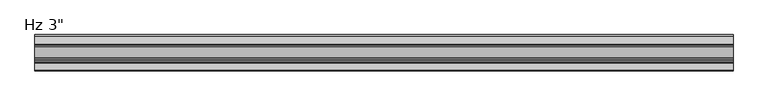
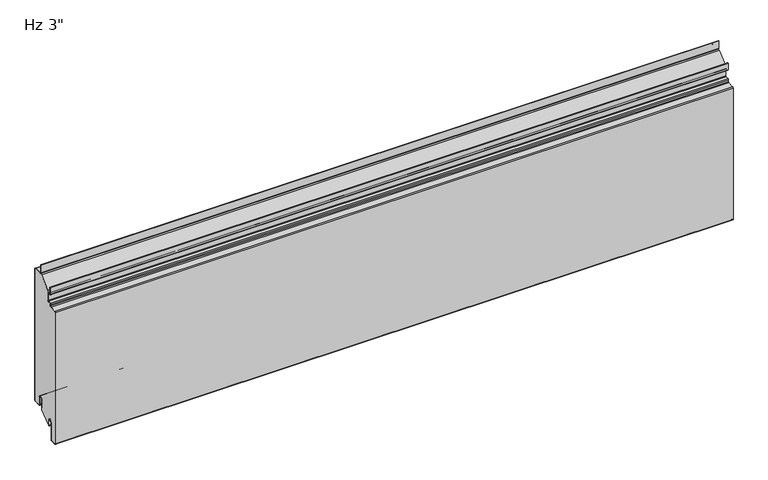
"""IFC4 building model written with IfcOpenShell, lengths in millimetres: plate geometry."""

from ifc_helpers import new_model, si_unit, point, frame, frame_2d, origin, place, context, project, spatial, polyline, circle_curve, ellipse_curve, trimmed, segment, composite_curve, outline, extrude, source, transform, mapped, element, save
from ifc_brep_helpers import plane_surface, cylinder_surface, revolved_surface, extruded_surface, advanced_brep


def plate_9adf70af(model_context):
    return source(origin(), model_context, "Body", "SolidModel", [
        extrude(outline(composite_curve([segment(trimmed(circle_curve(frame_2d((-21.43125, 19.05)), 4.96875), [point((-16.4625, 19.05))], [point((-26.4, 19.05))], True, "CARTESIAN"), True, "CONTINUOUS"), segment(polyline([(-26.4, 19.05), (-26.4, -3.1323422), (-49.2157227, -23.01875), (-50.8, -23.01875), (-50.8, -13.5080174), (-51.59375, -13.5080174), (-51.3875, -11.9205174)]), True, "CONTINUOUS"), segment(trimmed(circle_curve(frame_2d((-56.35625, -11.9205174)), 4.96875), [point((-51.3875, -11.9205174))], [point((-61.325, -11.9205174))], True, "CARTESIAN"), True, "CONTINUOUS"), segment(polyline([(-61.325, -11.9205174), (-61.325, -50.1038221)]), True, "CONTINUOUS"), segment(trimmed(circle_curve(frame_2d((-62.70625, -50.1038221)), 1.38125), [point((-61.325, -50.1038221))], [point((-62.633961, -51.4831791))], False, "CARTESIAN"), True, "CONTINUOUS"), segment(polyline([(-62.633961, -51.4831791), (-73.746461, -52.0655606)]), True, "CONTINUOUS"), segment(trimmed(circle_curve(frame_2d((-73.81875, -50.6862035)), 1.38125), [point((-73.746461, -52.0655606))], [point((-75.2, -50.6862035))], False, "CARTESIAN"), True, "CONTINUOUS"), segment(polyline([(-75.2, -50.6862035), (-75.2, 247.7572607)]), True, "CONTINUOUS"), segment(trimmed(circle_curve(frame_2d((-73.81875, 247.7572607)), 1.38125), [point((-75.2, 247.7572607))], [point((-73.891039, 249.1366177))], False, "CARTESIAN"), True, "CONTINUOUS"), segment(polyline([(-73.891039, 249.1366177), (-60.1895807, 249.8546807)]), True, "CONTINUOUS"), segment(trimmed(circle_curve(frame_2d((-60.325, 252.4386347)), 2.5875), [point((-60.1895807, 249.8546807))], [point((-57.7375, 252.4386347))], True, "CARTESIAN"), True, "CONTINUOUS"), segment(polyline([(-57.7375, 252.4386347), (-57.7375, 255.4824411)]), True, "CONTINUOUS"), segment(trimmed(circle_curve(frame_2d((-56.35625, 255.4824411)), 1.38125), [point((-57.7375, 255.4824411))], [point((-56.428539, 256.8617981))], False, "CARTESIAN"), True, "CONTINUOUS"), segment(polyline([(-56.428539, 256.8617981), (-50.6645807, 257.1638744)]), True, "CONTINUOUS"), segment(trimmed(circle_curve(frame_2d((-50.8, 259.7478283)), 2.5875), [point((-50.6645807, 257.1638744))], [point((-48.2125, 259.7478283))], True, "CARTESIAN"), True, "CONTINUOUS"), segment(polyline([(-48.2125, 259.7478283), (-48.2125, 282.1892934), (-24.9057308, 303.00625), (-2.38125, 303.00625)]), True, "CONTINUOUS"), segment(trimmed(circle_curve(frame_2d((-2.38125, 301.625)), 1.38125), [point((-2.38125, 303.00625))], [point((-1.0, 301.625))], False, "CARTESIAN"), True, "CONTINUOUS"), segment(polyline([(-1.0, 301.625), (-1.0, 3.175)]), True, "CONTINUOUS"), segment(trimmed(circle_curve(frame_2d((-2.38125, 3.175)), 1.38125), [point((-1.0, 3.175))], [point((-2.38125, 1.79375))], False, "CARTESIAN"), True, "CONTINUOUS"), segment(polyline([(-2.38125, 1.79375), (-15.08125, 1.79375)]), True, "CONTINUOUS"), segment(trimmed(circle_curve(frame_2d((-15.08125, 3.175)), 1.38125), [point((-15.08125, 1.79375))], [point((-16.4625, 3.175))], False, "CARTESIAN"), True, "CONTINUOUS"), segment(polyline([(-16.4625, 3.175), (-16.4625, 19.05)]), True, "CONTINUOUS")], self_intersect=False)), frame((-730.0, 0.0, 0.0), z_axis=(1.0, 0.0, 0.0), x_axis=(0.0, 1.0, 0.0)), (0.0, 0.0, 1.0), 1460.0),
        extrude(outline(composite_curve([segment(polyline([(-25.4, 0.79375), (-26.4, 0.79375), (-26.4, 19.05)]), True, "CONTINUOUS"), segment(trimmed(circle_curve(frame_2d((-21.43125, 19.05)), 4.96875), [point((-26.4, 19.05))], [point((-16.4625, 19.05))], False, "CARTESIAN"), True, "CONTINUOUS"), segment(polyline([(-16.4625, 19.05), (-16.4625, 3.175)]), True, "CONTINUOUS"), segment(trimmed(circle_curve(frame_2d((-15.08125, 3.175)), 1.38125), [point((-16.4625, 3.175))], [point((-15.08125, 1.79375))], True, "CARTESIAN"), True, "CONTINUOUS"), segment(polyline([(-15.08125, 1.79375), (-2.38125, 1.79375)]), True, "CONTINUOUS"), segment(trimmed(circle_curve(frame_2d((-2.38125, 3.175)), 1.38125), [point((-2.38125, 1.79375))], [point((-1.0, 3.175))], True, "CARTESIAN"), True, "CONTINUOUS"), segment(polyline([(-1.0, 3.175), (-1.0, 301.625)]), True, "CONTINUOUS"), segment(trimmed(circle_curve(frame_2d((-2.38125, 301.625)), 1.38125), [point((-1.0, 301.625))], [point((-2.38125, 303.00625))], True, "CARTESIAN"), True, "CONTINUOUS"), segment(polyline([(-2.38125, 303.00625), (-19.446875, 303.00625)]), True, "CONTINUOUS"), segment(trimmed(circle_curve(frame_2d((-19.446875, 305.59375)), 2.5875), [point((-19.446875, 303.00625))], [point((-22.034375, 305.59375))], False, "CARTESIAN"), True, "CONTINUOUS"), segment(polyline([(-22.034375, 305.59375), (-22.034375, 323.05625), (-21.034375, 323.05625), (-21.034375, 305.59375)]), True, "CONTINUOUS"), segment(trimmed(circle_curve(frame_2d((-19.446875, 305.59375)), 1.5875), [point((-21.034375, 305.59375))], [point((-19.446875, 304.00625))], True, "CARTESIAN"), True, "CONTINUOUS"), segment(polyline([(-19.446875, 304.00625), (-2.38125, 304.00625)]), True, "CONTINUOUS"), segment(trimmed(circle_curve(frame_2d((-2.38125, 301.625)), 2.38125), [point((-2.38125, 304.00625))], [point((0.0, 301.625))], False, "CARTESIAN"), True, "CONTINUOUS"), segment(polyline([(0.0, 301.625), (0.0, 3.175)]), True, "CONTINUOUS"), segment(trimmed(circle_curve(frame_2d((-2.38125, 3.175)), 2.38125), [point((0.0, 3.175))], [point((-2.38125, 0.79375))], False, "CARTESIAN"), True, "CONTINUOUS"), segment(polyline([(-2.38125, 0.79375), (-15.08125, 0.79375)]), True, "CONTINUOUS"), segment(trimmed(circle_curve(frame_2d((-15.08125, 3.175)), 2.38125), [point((-15.08125, 0.79375))], [point((-17.4625, 3.175))], False, "CARTESIAN"), True, "CONTINUOUS"), segment(polyline([(-17.4625, 3.175), (-17.4625, 19.05)]), True, "CONTINUOUS"), segment(trimmed(circle_curve(frame_2d((-21.43125, 19.05)), 3.96875), [point((-17.4625, 19.05))], [point((-25.4, 19.05))], True, "CARTESIAN"), True, "CONTINUOUS"), segment(polyline([(-25.4, 19.05), (-25.4, 0.79375)]), True, "CONTINUOUS")], self_intersect=False)), frame((-730.0, 0.0, 0.0), z_axis=(1.0, 0.0, 0.0), x_axis=(0.0, 1.0, 0.0)), (0.0, 0.0, 1.0), 1460.0),
        advanced_brep(
        [(-730.0, -50.8, -23.2314549), (-730.0, -52.3875, -23.2314549), (-730.0, -52.3875, -11.9205174), (-730.0, -60.325, -11.9205174), (-730.0, -60.325, -50.1038221), (-730.0, -62.581625, -52.4818086), (-730.0, -73.694125, -53.0641901), (-730.0, -76.2, -50.6862035), (-730.0, -76.2, 247.7572607), (-730.0, -73.943375, 250.1352473), (-730.0, -60.2419167, 250.8533103), (-730.0, -58.7375, 252.4386347), (-730.0, -58.7375, 255.4824411), (-730.0, -56.480875, 257.8604276), (-730.0, -50.7169167, 258.1625039), (-730.0, -49.2125, 259.7478283), (-730.0, -49.2125, 274.6232326), (-730.0, -50.8, 276.2107326), (-730.0, -54.9671875, 276.2107326), (-730.0, -57.3484375, 278.5919826), (-730.0, -57.3484375, 293.0836032), (-730.0, -55.5546875, 293.0836032), (-730.0, -55.5546875, 283.3544826), (-730.0, -56.3484375, 283.3544826), (-730.0, -56.3484375, 278.5919826), (-730.0, -54.9671875, 277.2107326), (-730.0, -50.8, 277.2107326), (-730.0, -48.2125, 274.6232326), (-730.0, -48.2125, 259.7478283), (-730.0, -50.6645807, 257.1638744), (-730.0, -56.428539, 256.8617981), (-730.0, -57.7375, 255.4824411), (-730.0, -57.7375, 252.4386347), (-730.0, -60.1895807, 249.8546807), (-730.0, -73.891039, 249.1366177), (-730.0, -75.2, 247.7572607), (-730.0, -75.2, -50.6862035), (-730.0, -73.746461, -52.0655606), (-730.0, -62.633961, -51.4831791), (-730.0, -61.325, -50.1038221), (-730.0, -61.325, -11.9205174), (-730.0, -51.3875, -11.9205174), (-730.0, -51.59375, -13.5080174), (-730.0, -50.8, -13.5080174), (730.0, -50.8, -23.2314549), (730.0, -50.8, -13.5080174), (730.0, -51.59375, -13.5080174), (730.0, -51.3875, -11.9205174), (730.0, -61.325, -11.9205174), (730.0, -61.325, -50.1038221), (730.0, -62.633961, -51.4831791), (730.0, -73.746461, -52.0655606), (730.0, -75.2, -50.6862035), (730.0, -75.2, 247.7572607), (730.0, -73.891039, 249.1366177), (730.0, -60.1895807, 249.8546807), (730.0, -57.7375, 252.4386347), (730.0, -57.7375, 255.4824411), (730.0, -56.428539, 256.8617981), (730.0, -50.6645807, 257.1638744), (730.0, -48.2125, 259.7478283), (730.0, -48.2125, 274.6232326), (730.0, -50.8, 277.2107326), (730.0, -54.9671875, 277.2107326), (730.0, -56.3484375, 278.5919826), (730.0, -56.3484375, 283.3544826), (730.0, -55.5546875, 283.3544826), (730.0, -55.5546875, 293.0836032), (730.0, -57.3484375, 293.0836032), (730.0, -57.3484375, 278.5919826), (730.0, -54.9671875, 276.2107326), (730.0, -50.8, 276.2107326), (730.0, -49.2125, 274.6232326), (730.0, -49.2125, 259.7478283), (730.0, -50.7169167, 258.1625039), (730.0, -56.480875, 257.8604276), (730.0, -58.7375, 255.4824411), (730.0, -58.7375, 252.4386347), (730.0, -60.2419167, 250.8533103), (730.0, -73.943375, 250.1352473), (730.0, -76.2, 247.7572607), (730.0, -76.2, -50.6862035), (730.0, -73.694125, -53.0641901), (730.0, -62.581625, -52.4818086), (730.0, -60.325, -50.1038221), (730.0, -60.325, -11.9205174), (730.0, -52.3875, -11.9205174), (730.0, -52.3875, -23.2314549)],
        [
            (0, 1, circle_curve(frame((-730.0, -51.59375, -23.2314549), z_axis=(-1.0, 0.0, 0.0), x_axis=(0.0, 0.0, -1.0)), 0.79375)),
            (1, 2),
            (2, 3, circle_curve(frame((-730.0, -56.35625, -11.9205174), z_axis=(1.0, 0.0, 0.0), x_axis=(0.0, 0.0, -1.0)), 3.96875)),
            (3, 4),
            (4, 5, circle_curve(frame((-730.0, -62.70625, -50.1038221), z_axis=(-1.0, 0.0, 0.0), x_axis=(0.0, 0.0, -1.0)), 2.38125)),
            (5, 6),
            (6, 7, circle_curve(frame((-730.0, -73.81875, -50.6862035), z_axis=(-1.0, 0.0, 0.0), x_axis=(0.0, 0.0, -1.0)), 2.38125)),
            (7, 8),
            (8, 9, circle_curve(frame((-730.0, -73.81875, 247.7572607), z_axis=(-1.0, 0.0, 0.0), x_axis=(0.0, 0.0, -1.0)), 2.38125)),
            (9, 10),
            (10, 11, circle_curve(frame((-730.0, -60.325, 252.4386347), z_axis=(1.0, 0.0, 0.0), x_axis=(0.0, 0.0, -1.0)), 1.5875)),
            (11, 12),
            (12, 13, circle_curve(frame((-730.0, -56.35625, 255.4824411), z_axis=(-1.0, 0.0, 0.0), x_axis=(0.0, 0.0, -1.0)), 2.38125)),
            (13, 14),
            (14, 15, circle_curve(frame((-730.0, -50.8, 259.7478283), z_axis=(1.0, 0.0, 0.0), x_axis=(0.0, 0.0, -1.0)), 1.5875)),
            (15, 16),
            (16, 17, circle_curve(frame((-730.0, -50.8, 274.6232326), z_axis=(1.0, 0.0, 0.0), x_axis=(0.0, 0.0, -1.0)), 1.5875)),
            (17, 18),
            (18, 19, circle_curve(frame((-730.0, -54.9671875, 278.5919826), z_axis=(-1.0, 0.0, 0.0), x_axis=(0.0, 0.0, -1.0)), 2.38125)),
            (19, 20),
            (20, 21, ellipse_curve(frame((-730.0, -56.4515625, 293.0836032), z_axis=(-1.0, 0.0, 0.0), x_axis=(0.0, 1.0, 0.0)), 0.896875, 0.7852275)),
            (21, 22),
            (22, 23),
            (23, 24),
            (24, 25, circle_curve(frame((-730.0, -54.9671875, 278.5919826), z_axis=(1.0, 0.0, 0.0), x_axis=(0.0, 0.0, -1.0)), 1.38125)),
            (25, 26),
            (26, 27, circle_curve(frame((-730.0, -50.8, 274.6232326), z_axis=(-1.0, 0.0, 0.0), x_axis=(0.0, 0.0, -1.0)), 2.5875)),
            (27, 28),
            (28, 29, circle_curve(frame((-730.0, -50.8, 259.7478283), z_axis=(-1.0, 0.0, 0.0), x_axis=(0.0, 0.0, -1.0)), 2.5875)),
            (29, 30),
            (30, 31, circle_curve(frame((-730.0, -56.35625, 255.4824411), z_axis=(1.0, 0.0, 0.0), x_axis=(0.0, 0.0, -1.0)), 1.38125)),
            (31, 32),
            (32, 33, circle_curve(frame((-730.0, -60.325, 252.4386347), z_axis=(-1.0, 0.0, 0.0), x_axis=(0.0, 0.0, -1.0)), 2.5875)),
            (33, 34),
            (34, 35, circle_curve(frame((-730.0, -73.81875, 247.7572607), z_axis=(1.0, 0.0, 0.0), x_axis=(0.0, 0.0, -1.0)), 1.38125)),
            (35, 36),
            (36, 37, circle_curve(frame((-730.0, -73.81875, -50.6862035), z_axis=(1.0, 0.0, 0.0), x_axis=(0.0, 0.0, -1.0)), 1.38125)),
            (37, 38),
            (38, 39, circle_curve(frame((-730.0, -62.70625, -50.1038221), z_axis=(1.0, 0.0, 0.0), x_axis=(0.0, 0.0, -1.0)), 1.38125)),
            (39, 40),
            (40, 41, circle_curve(frame((-730.0, -56.35625, -11.9205174), z_axis=(-1.0, 0.0, 0.0), x_axis=(0.0, 0.0, -1.0)), 4.96875)),
            (41, 42),
            (42, 43),
            (43, 0),
            (44, 45),
            (45, 46),
            (46, 47),
            (47, 48, circle_curve(frame((730.0, -56.35625, -11.9205174), z_axis=(1.0, 0.0, 0.0), x_axis=(0.0, 0.0, -1.0)), 4.96875)),
            (48, 49),
            (49, 50, circle_curve(frame((730.0, -62.70625, -50.1038221), z_axis=(-1.0, 0.0, 0.0), x_axis=(0.0, 0.0, -1.0)), 1.38125)),
            (50, 51),
            (51, 52, circle_curve(frame((730.0, -73.81875, -50.6862035), z_axis=(-1.0, 0.0, 0.0), x_axis=(0.0, 0.0, -1.0)), 1.38125)),
            (52, 53),
            (53, 54, circle_curve(frame((730.0, -73.81875, 247.7572607), z_axis=(-1.0, 0.0, 0.0), x_axis=(0.0, 0.0, -1.0)), 1.38125)),
            (54, 55),
            (55, 56, circle_curve(frame((730.0, -60.325, 252.4386347), z_axis=(1.0, 0.0, 0.0), x_axis=(0.0, 0.0, -1.0)), 2.5875)),
            (56, 57),
            (57, 58, circle_curve(frame((730.0, -56.35625, 255.4824411), z_axis=(-1.0, 0.0, 0.0), x_axis=(0.0, 0.0, -1.0)), 1.38125)),
            (58, 59),
            (59, 60, circle_curve(frame((730.0, -50.8, 259.7478283), z_axis=(1.0, 0.0, 0.0), x_axis=(0.0, 0.0, -1.0)), 2.5875)),
            (60, 61),
            (61, 62, circle_curve(frame((730.0, -50.8, 274.6232326), z_axis=(1.0, 0.0, 0.0), x_axis=(0.0, 0.0, -1.0)), 2.5875)),
            (62, 63),
            (63, 64, circle_curve(frame((730.0, -54.9671875, 278.5919826), z_axis=(-1.0, 0.0, 0.0), x_axis=(0.0, 0.0, -1.0)), 1.38125)),
            (64, 65),
            (65, 66),
            (66, 67),
            (67, 68, ellipse_curve(frame((730.0, -56.4515625, 293.0836032), z_axis=(1.0, 0.0, 0.0), x_axis=(0.0, 1.0, 0.0)), 0.896875, 0.7852275)),
            (68, 69),
            (69, 70, circle_curve(frame((730.0, -54.9671875, 278.5919826), z_axis=(1.0, 0.0, 0.0), x_axis=(0.0, 0.0, -1.0)), 2.38125)),
            (70, 71),
            (71, 72, circle_curve(frame((730.0, -50.8, 274.6232326), z_axis=(-1.0, 0.0, 0.0), x_axis=(0.0, 0.0, -1.0)), 1.5875)),
            (72, 73),
            (73, 74, circle_curve(frame((730.0, -50.8, 259.7478283), z_axis=(-1.0, 0.0, 0.0), x_axis=(0.0, 0.0, -1.0)), 1.5875)),
            (74, 75),
            (75, 76, circle_curve(frame((730.0, -56.35625, 255.4824411), z_axis=(1.0, 0.0, 0.0), x_axis=(0.0, 0.0, -1.0)), 2.38125)),
            (76, 77),
            (77, 78, circle_curve(frame((730.0, -60.325, 252.4386347), z_axis=(-1.0, 0.0, 0.0), x_axis=(0.0, 0.0, -1.0)), 1.5875)),
            (78, 79),
            (79, 80, circle_curve(frame((730.0, -73.81875, 247.7572607), z_axis=(1.0, 0.0, 0.0), x_axis=(0.0, 0.0, -1.0)), 2.38125)),
            (80, 81),
            (81, 82, circle_curve(frame((730.0, -73.81875, -50.6862035), z_axis=(1.0, 0.0, 0.0), x_axis=(0.0, 0.0, -1.0)), 2.38125)),
            (82, 83),
            (83, 84, circle_curve(frame((730.0, -62.70625, -50.1038221), z_axis=(1.0, 0.0, 0.0), x_axis=(0.0, 0.0, -1.0)), 2.38125)),
            (84, 85),
            (85, 86, circle_curve(frame((730.0, -56.35625, -11.9205174), z_axis=(-1.0, 0.0, 0.0), x_axis=(0.0, 0.0, -1.0)), 3.96875)),
            (86, 87),
            (87, 44, circle_curve(frame((730.0, -51.59375, -23.2314549), z_axis=(1.0, 0.0, 0.0), x_axis=(0.0, 0.0, -1.0)), 0.79375)),
            (36, 52),
            (51, 37),
            (50, 38),
            (49, 39),
            (48, 40),
            (47, 41),
            (42, 46),
            (45, 43),
            (22, 66),
            (65, 23),
            (21, 67),
            (20, 68),
            (34, 54),
            (53, 35),
            (32, 56),
            (55, 33),
            (30, 58),
            (57, 31),
            (28, 60),
            (59, 29),
            (24, 64),
            (63, 25),
            (26, 62),
            (61, 27),
            (19, 69),
            (17, 71),
            (70, 18),
            (15, 73),
            (72, 16),
            (13, 75),
            (74, 14),
            (11, 77),
            (76, 12),
            (9, 79),
            (78, 10),
            (7, 81),
            (80, 8),
            (5, 83),
            (82, 6),
            (3, 85),
            (84, 4),
            (1, 87),
            (86, 2),
            (44, 0),
        ],
        [
            plane_surface(frame((-730.0, -76.2, 152.4), z_axis=(-1.0, 0.0, 0.0), x_axis=(0.0, -1.0, 0.0))),
            plane_surface(frame((730.0, -76.2, 152.4), z_axis=(1.0, 0.0, 0.0), x_axis=(0.0, -1.0, 0.0))),
            revolved_surface(polyline([(730.0, -73.81875, -52.0674535), (-730.0, -73.81875, -52.0674535)]), (-730.0, -73.81875, -50.6862035), (1.0, 0.0, 0.0)),
            plane_surface(frame((-730.0, -62.633961, -51.4831791), z_axis=(0.0, -0.05233595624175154, 0.9986295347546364), x_axis=(1.0, 0.0, 0.0))),
            revolved_surface(polyline([(730.0, -62.70625, -51.485072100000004), (-730.0, -62.70625, -51.485072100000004)]), (-730.0, -62.70625, -50.1038221), (1.0, 0.0, 0.0)),
            plane_surface(frame((-730.0, -61.325, -11.9205174), z_axis=(0.0, -1.0, 0.0), x_axis=(1.0, 0.0, 0.0))),
            cylinder_surface(frame((-730.0, -56.35625, -11.9205174), z_axis=(-1.0, 0.0, 0.0), x_axis=(0.0, 0.0, -1.0)), 4.96875),
            plane_surface(frame((-730.0, -50.8, -13.5080174), z_axis=(0.0, 0.0, 1.0), x_axis=(1.0, 0.0, 0.0))),
            plane_surface(frame((-730.0, -51.59375, -13.5080174), z_axis=(0.0, 0.9916655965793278, -0.12883844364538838), x_axis=(1.0, 0.0, 0.0))),
            plane_surface(frame((-730.0, -56.3484375, 283.3544826), z_axis=(0.0, 0.0, -1.0), x_axis=(1.0, 0.0, 0.0))),
            plane_surface(frame((-730.0, -55.5546875, 283.3544826), z_axis=(0.0, 1.0, 0.0), x_axis=(1.0, 0.0, 0.0))),
            extruded_surface(trimmed(ellipse_curve(frame((-730.0, -56.4515625, 293.0836032), z_axis=(1.0, 0.0, 0.0), x_axis=(0.0, 1.0, 0.0)), 0.896875, 0.7852275), [point((-730.0, -55.5546875, 293.0836032))], [point((-730.0, -57.3484375, 293.0836032))], True, "CARTESIAN"), (1460.0, 0.0, 0.0), 1460.0),
            revolved_surface(polyline([(730.0, -73.81875, 246.3760107), (-730.0, -73.81875, 246.3760107)]), (-730.0, -73.81875, 247.7572607), (1.0, 0.0, 0.0)),
            cylinder_surface(frame((-730.0, -60.325, 252.4386347), z_axis=(-1.0, 0.0, 0.0), x_axis=(0.0, 0.0, -1.0)), 2.5875),
            plane_surface(frame((-730.0, -73.891039, 249.1366177), z_axis=(0.0, 0.05233595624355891, -0.9986295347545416), x_axis=(1.0, 0.0, 0.0))),
            plane_surface(frame((-730.0, -75.2, -50.6862035), z_axis=(0.0, 1.0, 0.0), x_axis=(1.0, 0.0, 0.0))),
            revolved_surface(polyline([(730.0, -56.35625, 254.1011911), (-730.0, -56.35625, 254.1011911)]), (-730.0, -56.35625, 255.4824411), (1.0, 0.0, 0.0)),
            cylinder_surface(frame((-730.0, -50.8, 259.7478283), z_axis=(-1.0, 0.0, 0.0), x_axis=(0.0, 0.0, -1.0)), 2.5875),
            plane_surface(frame((-730.0, -56.428539, 256.8617981), z_axis=(0.0, 0.052335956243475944, -0.9986295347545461), x_axis=(1.0, 0.0, 0.0))),
            plane_surface(frame((-730.0, -57.7375, 252.4386347), z_axis=(0.0, 1.0, 0.0), x_axis=(1.0, 0.0, 0.0))),
            revolved_surface(polyline([(730.0, -54.9671875, 277.2107326), (-730.0, -54.9671875, 277.2107326)]), (-730.0, -54.9671875, 278.5919826), (1.0, 0.0, 0.0)),
            cylinder_surface(frame((-730.0, -50.8, 274.6232326), z_axis=(-1.0, 0.0, 0.0), x_axis=(0.0, 0.0, -1.0)), 2.5875),
            plane_surface(frame((-730.0, -50.8, 277.2107326), z_axis=(0.0, 0.0, 1.0), x_axis=(1.0, 0.0, 0.0))),
            plane_surface(frame((-730.0, -56.3484375, 278.5919826), z_axis=(0.0, 1.0, 0.0), x_axis=(1.0, 0.0, 0.0))),
            plane_surface(frame((-730.0, -57.3484375, 293.0836032), z_axis=(0.0, -1.0, 0.0), x_axis=(1.0, 0.0, 0.0))),
            plane_surface(frame((-730.0, -54.9671875, 276.2107326), z_axis=(0.0, 0.0, -1.0), x_axis=(1.0, 0.0, 0.0))),
            cylinder_surface(frame((-730.0, -54.9671875, 278.5919826), z_axis=(-1.0, 0.0, 0.0), x_axis=(0.0, 0.0, -1.0)), 2.38125),
            plane_surface(frame((-730.0, -48.2125, 259.7478283), z_axis=(0.0, 1.0, 0.0), x_axis=(1.0, 0.0, 0.0))),
            plane_surface(frame((-730.0, -49.2125, 274.6232326), z_axis=(0.0, -1.0, 0.0), x_axis=(1.0, 0.0, 0.0))),
            plane_surface(frame((-730.0, -50.7169167, 258.1625039), z_axis=(0.0, -0.05233595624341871, 0.9986295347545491), x_axis=(1.0, 0.0, 0.0))),
            revolved_surface(polyline([(730.0, -50.8, 258.1603283), (-730.0, -50.8, 258.1603283)]), (-730.0, -50.8, 259.7478283), (1.0, 0.0, 0.0)),
            revolved_surface(polyline([(730.0, -50.8, 273.0357326), (-730.0, -50.8, 273.0357326)]), (-730.0, -50.8, 274.6232326), (1.0, 0.0, 0.0)),
            plane_surface(frame((-730.0, -58.7375, 255.4824411), z_axis=(0.0, -1.0, 0.0), x_axis=(1.0, 0.0, 0.0))),
            plane_surface(frame((-730.0, -60.2419167, 250.8533103), z_axis=(0.0, -0.05233595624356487, 0.9986295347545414), x_axis=(1.0, 0.0, 0.0))),
            revolved_surface(polyline([(730.0, -60.325, 250.8511347), (-730.0, -60.325, 250.8511347)]), (-730.0, -60.325, 252.4386347), (1.0, 0.0, 0.0)),
            cylinder_surface(frame((-730.0, -56.35625, 255.4824411), z_axis=(-1.0, 0.0, 0.0), x_axis=(0.0, 0.0, -1.0)), 2.38125),
            plane_surface(frame((-730.0, -76.2, 247.7572607), z_axis=(0.0, -1.0, 0.0), x_axis=(1.0, 0.0, 0.0))),
            plane_surface(frame((-730.0, -73.694125, -53.0641901), z_axis=(0.0, 0.05233595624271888, -0.9986295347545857), x_axis=(1.0, 0.0, 0.0))),
            cylinder_surface(frame((-730.0, -73.81875, -50.6862035), z_axis=(-1.0, 0.0, 0.0), x_axis=(0.0, 0.0, -1.0)), 2.38125),
            cylinder_surface(frame((-730.0, -73.81875, 247.7572607), z_axis=(-1.0, 0.0, 0.0), x_axis=(0.0, 0.0, -1.0)), 2.38125),
            plane_surface(frame((-730.0, -60.325, -50.1038221), z_axis=(0.0, 1.0, 0.0), x_axis=(1.0, 0.0, 0.0))),
            plane_surface(frame((-730.0, -52.3875, -11.9205174), z_axis=(0.0, -1.0, 0.0), x_axis=(1.0, 0.0, 0.0))),
            revolved_surface(polyline([(730.0, -56.35625, -15.8892674), (-730.0, -56.35625, -15.8892674)]), (-730.0, -56.35625, -11.9205174), (1.0, 0.0, 0.0)),
            cylinder_surface(frame((-730.0, -62.70625, -50.1038221), z_axis=(-1.0, 0.0, 0.0), x_axis=(0.0, 0.0, -1.0)), 2.38125),
            plane_surface(frame((-730.0, -50.8, -23.2314549), z_axis=(0.0, 1.0, 0.0), x_axis=(1.0, 0.0, 0.0))),
            cylinder_surface(frame((-730.0, -51.59375, -23.2314549), z_axis=(-1.0, 0.0, 0.0), x_axis=(0.0, 0.0, -1.0)), 0.79375),
        ],
        [
            (0, [[1, 2, 3, 4, 5, 6, 7, 8, 9, 10, 11, 12, 13, 14, 15, 16, 17, 18, 19, 20, 21, 22, 23, 24, 25, 26, 27, 28, 29, 30, 31, 32, 33, 34, 35, 36, 37, 38, 39, 40, 41, 42, 43, 44]]),
            (1, [[45, 46, 47, 48, 49, 50, 51, 52, 53, 54, 55, 56, 57, 58, 59, 60, 61, 62, 63, 64, 65, 66, 67, 68, 69, 70, 71, 72, 73, 74, 75, 76, 77, 78, 79, 80, 81, 82, 83, 84, 85, 86, 87, 88]]),
            (2, [[89, -52, 90, -37]]),
            (3, [[-90, -51, 91, -38]]),
            (4, [[-91, -50, 92, -39]]),
            (5, [[-92, -49, 93, -40]]),
            (6, [[-93, -48, 94, -41]]),
            (7, [[95, -46, 96, -43]]),
            (8, [[-94, -47, -95, -42]]),
            (9, [[97, -66, 98, -23]]),
            (10, [[99, -67, -97, -22]]),
            (11, [[100, -68, -99, -21]]),
            (12, [[101, -54, 102, -35]]),
            (13, [[103, -56, 104, -33]]),
            (14, [[-104, -55, -101, -34]]),
            (15, [[-102, -53, -89, -36]]),
            (16, [[105, -58, 106, -31]]),
            (17, [[107, -60, 108, -29]]),
            (18, [[-108, -59, -105, -30]]),
            (19, [[-106, -57, -103, -32]]),
            (20, [[109, -64, 110, -25]]),
            (21, [[111, -62, 112, -27]]),
            (22, [[-110, -63, -111, -26]]),
            (23, [[-98, -65, -109, -24]]),
            (24, [[113, -69, -100, -20]]),
            (25, [[114, -71, 115, -18]]),
            (26, [[-115, -70, -113, -19]]),
            (27, [[-112, -61, -107, -28]]),
            (28, [[116, -73, 117, -16]]),
            (29, [[118, -75, 119, -14]]),
            (30, [[-119, -74, -116, -15]]),
            (31, [[-117, -72, -114, -17]]),
            (32, [[120, -77, 121, -12]]),
            (33, [[122, -79, 123, -10]]),
            (34, [[-123, -78, -120, -11]]),
            (35, [[-121, -76, -118, -13]]),
            (36, [[124, -81, 125, -8]]),
            (37, [[126, -83, 127, -6]]),
            (38, [[-127, -82, -124, -7]]),
            (39, [[-125, -80, -122, -9]]),
            (40, [[128, -85, 129, -4]]),
            (41, [[130, -87, 131, -2]]),
            (42, [[-131, -86, -128, -3]]),
            (43, [[-129, -84, -126, -5]]),
            (44, [[-96, -45, 132, -44]]),
            (45, [[-132, -88, -130, -1]]),
        ],
    ),
    ])


if __name__ == "__main__":
    model = new_model("IFC4")
    model_context = context("Model", 3, world=origin())
    ifc_project = project(units=[si_unit("LENGTHUNIT", "METRE", prefix="MILLI")], contexts=[model_context])
    site = spatial("IfcSite", under=ifc_project)
    building = spatial("IfcBuilding", under=site)
    placement = place(None, origin())
    plate_shape = plate_9adf70af(model_context)
    element("IfcPlate", 1, ObjectType="KIP-12-DWTR-R19-CP-Hz-F : Hz 3\"", at=placement, inside=building, context=model_context, shape_type="MappedRepresentation", body=[
        mapped(plate_shape, transform((0.0, 0.0, 0.0), x_axis=(1.0, 0.0, 0.0), y_axis=(0.0, 1.0, 0.0), z_axis=(0.0, 0.0, 1.0))),
    ])
    save(model, "model.ifc")
